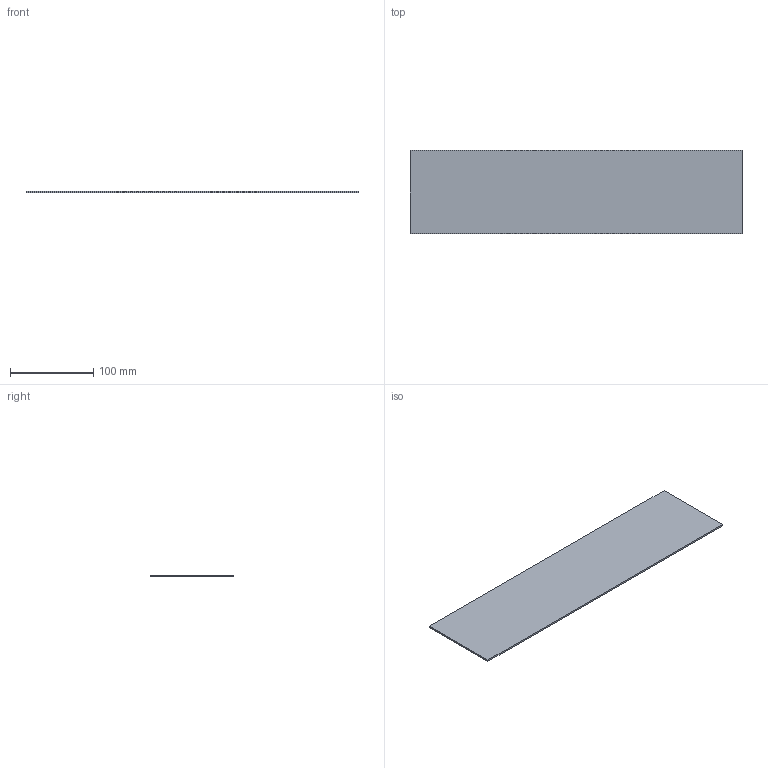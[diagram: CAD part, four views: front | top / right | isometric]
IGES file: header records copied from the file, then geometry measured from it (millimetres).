
Start section: SolidWorks IGES file using analytic representation for surfaces
Global section: file name: \\UTENTI\Dati Utenti\Tecnico\DC\2D - 3D per sito\3D superfici\DeCastelli-3D-Forma 10x40.igs; native system: SolidWorks 2022; preprocessor: SolidWorks 2022; author: Silviad; date: 240808.092927; units: millimetre
Bounding box: 400 x 100 x 2 mm (x, y, z)
Surface area: 82000 mm2 (no closed solid volume)
Topology: 0 solids, 0 shells, 6 faces, 24 edges, 24 vertices
Faces by surface type: bspline 6
